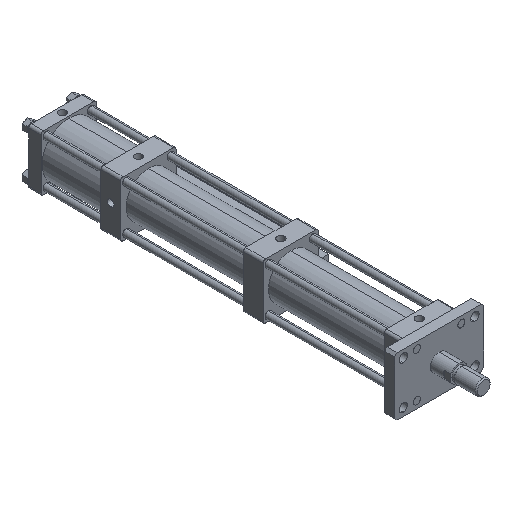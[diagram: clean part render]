
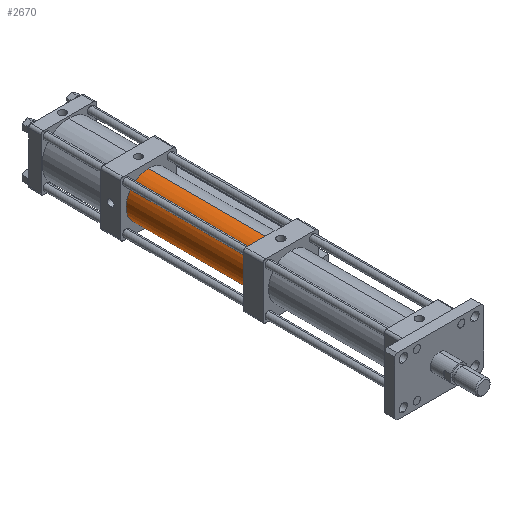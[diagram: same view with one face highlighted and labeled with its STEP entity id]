
A CAD part, isometric view. The second image highlights one B-rep face of the part: STEP entity #2670.
In plain terms, the highlighted cylindrical face has radius 45 mm (diameter 90 mm), a partial arc.
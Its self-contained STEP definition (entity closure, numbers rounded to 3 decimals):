
#528 = DIRECTION ( 'NONE',  ( 0., 0., 1. ) ) ;
#1115 = VECTOR ( 'NONE', #6486, 1000. ) ;
#1455 = ORIENTED_EDGE ( 'NONE', *, *, #3207, .T. ) ;
#1563 = VECTOR ( 'NONE', #3849, 1000. ) ;
#1915 = EDGE_LOOP ( 'NONE', ( #7224, #6492, #3271, #1455 ) ) ;
#2114 = DIRECTION ( 'NONE',  ( 0., 0., -1. ) ) ;
#2351 = VERTEX_POINT ( 'NONE', #2712 ) ;
#2431 = CYLINDRICAL_SURFACE ( 'NONE', #6397, 45. ) ;
#2651 = AXIS2_PLACEMENT_3D ( 'NONE', #7885, #4224, #528 ) ;
#2670 = ADVANCED_FACE ( 'NONE', ( #7333 ), #2431, .T. ) ;
#2712 = CARTESIAN_POINT ( 'NONE',  ( 0., 340.002, 45. ) ) ;
#2752 = CIRCLE ( 'NONE', #2651, 45. ) ;
#3019 = CARTESIAN_POINT ( 'NONE',  ( 0., 588.002, 0. ) ) ;
#3207 = EDGE_CURVE ( 'NONE', #3547, #2351, #2752, .T. ) ;
#3211 = LINE ( 'NONE', #5687, #1563 ) ;
#3271 = ORIENTED_EDGE ( 'NONE', *, *, #6608, .T. ) ;
#3344 = DIRECTION ( 'NONE',  ( 0., -1., 0. ) ) ;
#3390 = CARTESIAN_POINT ( 'NONE',  ( 0., 588.002, -45. ) ) ;
#3547 = VERTEX_POINT ( 'NONE', #5909 ) ;
#3571 = CARTESIAN_POINT ( 'NONE',  ( 0., 588.002, 45. ) ) ;
#3640 = DIRECTION ( 'NONE',  ( 0., 0., 1. ) ) ;
#3814 = AXIS2_PLACEMENT_3D ( 'NONE', #3019, #7323, #3640 ) ;
#3849 = DIRECTION ( 'NONE',  ( 0., -1., 0. ) ) ;
#4224 = DIRECTION ( 'NONE',  ( 0., 1., 0. ) ) ;
#4675 = CIRCLE ( 'NONE', #3814, 45. ) ;
#5061 = VERTEX_POINT ( 'NONE', #3571 ) ;
#5273 = CARTESIAN_POINT ( 'NONE',  ( 0., 588.002, -45. ) ) ;
#5687 = CARTESIAN_POINT ( 'NONE',  ( 0., 588.002, 45. ) ) ;
#5806 = CARTESIAN_POINT ( 'NONE',  ( 0., 588.002, 0. ) ) ;
#5909 = CARTESIAN_POINT ( 'NONE',  ( 0., 340.002, -45. ) ) ;
#5911 = EDGE_CURVE ( 'NONE', #5061, #2351, #3211, .T. ) ;
#6025 = LINE ( 'NONE', #5273, #1115 ) ;
#6390 = EDGE_CURVE ( 'NONE', #6588, #5061, #4675, .T. ) ;
#6397 = AXIS2_PLACEMENT_3D ( 'NONE', #5806, #3344, #2114 ) ;
#6486 = DIRECTION ( 'NONE',  ( 0., -1., 0. ) ) ;
#6492 = ORIENTED_EDGE ( 'NONE', *, *, #6390, .F. ) ;
#6588 = VERTEX_POINT ( 'NONE', #3390 ) ;
#6608 = EDGE_CURVE ( 'NONE', #6588, #3547, #6025, .T. ) ;
#7224 = ORIENTED_EDGE ( 'NONE', *, *, #5911, .F. ) ;
#7323 = DIRECTION ( 'NONE',  ( 0., 1., 0. ) ) ;
#7333 = FACE_OUTER_BOUND ( 'NONE', #1915, .T. ) ;
#7885 = CARTESIAN_POINT ( 'NONE',  ( 0., 340.002, 0. ) ) ;
